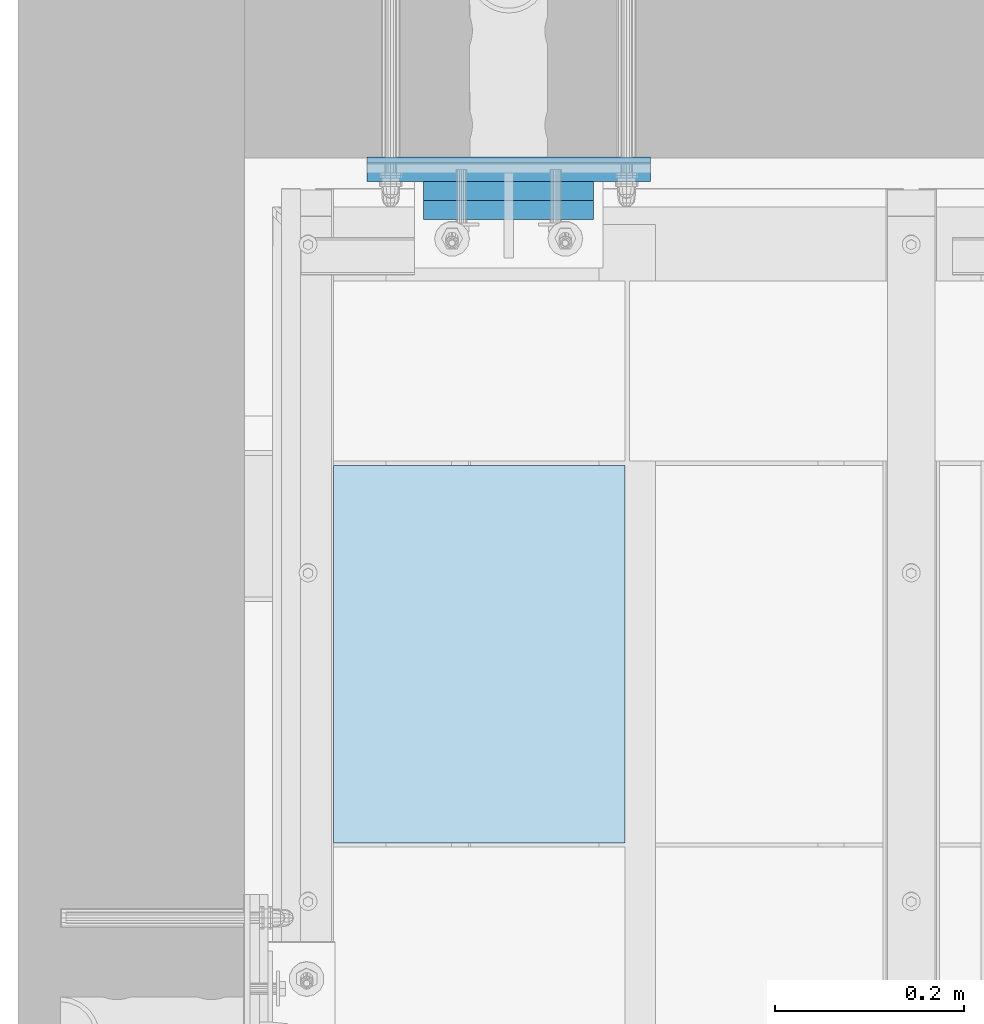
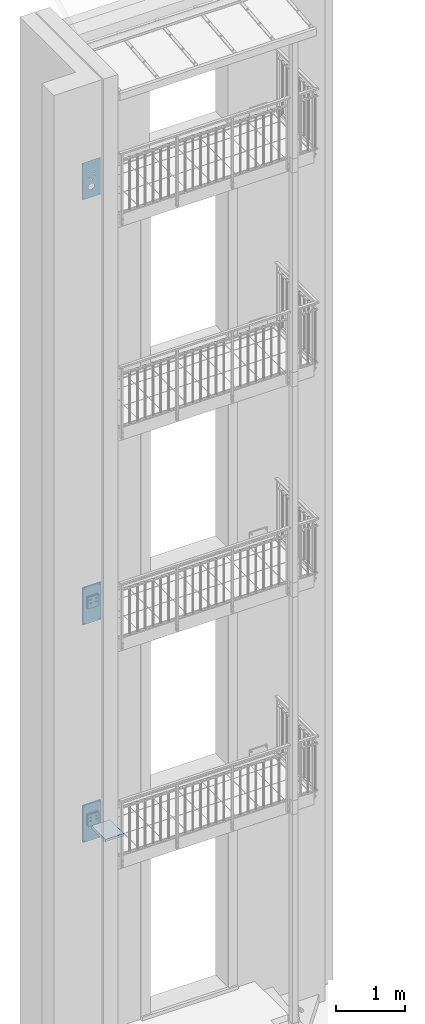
# One storey, part 61 of 162: 10 plates, 58 openings.
"""IFC2X3 building model written with IfcOpenShell, lengths in millimetres."""

from ifc_helpers import new_model, entity, si_unit, converted_unit, point, frame, frame_2d, origin, origin_with_axes, place, context, project, spatial, polyline, circle_curve, line_curve, trimmed, segment, composite_curve, circle, outline, extrude, material, layer, layer_set, element, save


model = new_model("IFC2X3")

# Units and contexts
model_context = context("Model", 3, precision=1e-09, world=origin_with_axes())
ifc_project = project(units=[si_unit("LENGTHUNIT", "METRE", prefix="MILLI"), si_unit("AREAUNIT", "SQUARE_METRE"), si_unit("VOLUMEUNIT", "CUBIC_METRE"), converted_unit("PLANEANGLEUNIT", "DEGREE", entity("IfcPlaneAngleMeasure", 0.01745329), si_unit("PLANEANGLEUNIT", "RADIAN"), dimensions=[0, 0, 0, 0, 0, 0, 0])], contexts=[model_context])

# Site, building, storey
site_placement = place(None, origin_with_axes())
site = spatial("IfcSite", under=ifc_project, at=site_placement, Name="Hermannstra?e 1a, 60318 Frankfurt", CompositionType="ELEMENT")
building_placement = place(site_placement, origin_with_axes())
building = spatial("IfcBuilding", under=site, at=building_placement, Name="Struktur 1", CompositionType="ELEMENT")
storey_placement = place(building_placement, origin_with_axes())
storey = spatial("IfcBuildingStorey", under=building, at=storey_placement, Name="Default Storey", CompositionType="ELEMENT", Elevation=0.0)

# Plate, openings
ifc_material_1 = material(Name="Thermostop")
ifc_layer_1 = layer(ifc_material_1, 6.0)
ifc_layer_set_1 = layer_set([ifc_layer_1], Name="Thermostop")
plate_1_placement = place(None, frame((2803.310071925, 2736.610081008, 15061.999), z_axis=(0.0, -1.0, 0.0), x_axis=(1.0, 0.0, 0.0)))
plate_1 = element("IfcPlate", 1, at=plate_1_placement, inside=storey, material=ifc_layer_set_1, Name="-", ObjectType="-", context=model_context, shape_type="SweptSolid", body=[
    extrude(outline(polyline([(-150.0, -325.0), (150.0, -325.0), (150.0, 325.0), (-150.0, 325.0), (-150.0, -325.0)])), origin_with_axes(), (0.0, 0.0, 1.0), 6.0),
])
opening_1_placement = place(plate_1_placement, frame((0.0, 0.0, -0.5), z_axis=(0.0, 0.0, 1.0), x_axis=(1.0, 0.0, 0.0)))
element("IfcOpeningElement", 2, at=opening_1_placement, cuts=plate_1, ObjectType="Opening", context=model_context, shape_type="SweptSolid", body=[
    extrude(circle(Radius=10.001, at=frame_2d((125.0, 300.0), x_axis=(1.0, 0.0))), origin(), (0.0, 0.0, 1.0), 7.0),
])
opening_2_placement = place(plate_1_placement, frame((0.0, 0.0, -0.5), z_axis=(0.0, 0.0, 1.0), x_axis=(1.0, 0.0, 0.0)))
element("IfcOpeningElement", 3, at=opening_2_placement, cuts=plate_1, ObjectType="Opening", context=model_context, shape_type="SweptSolid", body=[
    extrude(circle(Radius=10.001, at=frame_2d((-125.0, 300.0), x_axis=(1.0, 0.0))), origin(), (0.0, 0.0, 1.0), 7.0),
])
opening_3_placement = place(plate_1_placement, frame((0.0, 0.0, -0.5), z_axis=(0.0, 0.0, 1.0), x_axis=(1.0, 0.0, 0.0)))
element("IfcOpeningElement", 4, at=opening_3_placement, cuts=plate_1, ObjectType="Opening", context=model_context, shape_type="SweptSolid", body=[
    extrude(circle(Radius=10.001, at=frame_2d((125.0, -300.0), x_axis=(1.0, 0.0))), origin(), (0.0, 0.0, 1.0), 7.0),
])
opening_4_placement = place(plate_1_placement, frame((0.0, 0.0, -0.5), z_axis=(0.0, 0.0, 1.0), x_axis=(1.0, 0.0, 0.0)))
element("IfcOpeningElement", 5, at=opening_4_placement, cuts=plate_1, ObjectType="Opening", context=model_context, shape_type="SweptSolid", body=[
    extrude(circle(Radius=10.001, at=frame_2d((-125.0, -300.0), x_axis=(1.0, 0.0))), origin(), (0.0, 0.0, 1.0), 7.0),
])
opening_5_placement = place(plate_1_placement, frame((0.0, -40.0, -0.5), z_axis=(0.0, 0.0, 1.0), x_axis=(1.0, 0.0, 0.0)))
element("IfcOpeningElement", 6, at=opening_5_placement, cuts=plate_1, ObjectType="Opening", context=model_context, shape_type="SweptSolid", body=[
    extrude(circle(Radius=11.001, at=frame_2d((50.0, 150.0), x_axis=(1.0, 0.0))), origin(), (0.0, 0.0, 1.0), 7.0),
])
opening_6_placement = place(plate_1_placement, frame((0.0, -40.0, -0.5), z_axis=(0.0, 0.0, 1.0), x_axis=(1.0, 0.0, 0.0)))
element("IfcOpeningElement", 7, at=opening_6_placement, cuts=plate_1, ObjectType="Opening", context=model_context, shape_type="SweptSolid", body=[
    extrude(circle(Radius=11.001, at=frame_2d((-50.0, 150.0), x_axis=(1.0, 0.0))), origin(), (0.0, 0.0, 1.0), 7.0),
])
opening_7_placement = place(plate_1_placement, frame((0.0, -40.0, -0.5), z_axis=(0.0, 0.0, 1.0), x_axis=(1.0, 0.0, 0.0)))
element("IfcOpeningElement", 8, at=opening_7_placement, cuts=plate_1, ObjectType="Opening", context=model_context, shape_type="SweptSolid", body=[
    extrude(circle(Radius=11.001, at=frame_2d((50.0, 90.0), x_axis=(1.0, 0.0))), origin(), (0.0, 0.0, 1.0), 7.0),
])
opening_8_placement = place(plate_1_placement, frame((0.0, -40.0, -0.5), z_axis=(0.0, 0.0, 1.0), x_axis=(1.0, 0.0, 0.0)))
element("IfcOpeningElement", 9, at=opening_8_placement, cuts=plate_1, ObjectType="Opening", context=model_context, shape_type="SweptSolid", body=[
    extrude(circle(Radius=11.001, at=frame_2d((-50.0, 90.0), x_axis=(1.0, 0.0))), origin(), (0.0, 0.0, 1.0), 7.0),
])
opening_9_placement = place(plate_1_placement, frame((0.0, -125.0, -0.5), z_axis=(0.0, 0.0, 1.0), x_axis=(1.0, 0.0, 0.0)))
element("IfcOpeningElement", 10, at=opening_9_placement, cuts=plate_1, ObjectType="Opening", context=model_context, shape_type="SweptSolid", body=[
    extrude(circle(Radius=50.001, at=frame_2d((0.0, -10.0), x_axis=(1.0, 0.0))), origin(), (0.0, 0.0, 1.0), 7.0),
])
opening_10_placement = place(plate_1_placement, frame((0.0, -325.0, -0.5), z_axis=(0.0, 0.0, 1.0), x_axis=(1.0, 0.0, 0.0)))
element("IfcOpeningElement", 11, at=opening_10_placement, cuts=plate_1, ObjectType="Opening", context=model_context, shape_type="SweptSolid", body=[
    extrude(circle(Radius=15.001, at=frame_2d((0.0, 310.0), x_axis=(1.0, 0.0))), origin(), (0.0, 0.0, 1.0), 7.0),
])

# Plate, opening
ifc_material_2 = material(Name="S235JR")
ifc_layer_2 = layer(ifc_material_2, 20.0)
ifc_layer_set_2 = layer_set([ifc_layer_2], Name="S235JR")
plate_2_placement = place(None, frame((2803.308657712, 2710.608666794, 7665.0), z_axis=(0.0, -1.0, 0.0), x_axis=(1.0, 0.0, 0.0)))
plate_2 = element("IfcPlate", 12, at=plate_2_placement, inside=storey, material=ifc_layer_set_2, Name="-", ObjectType="-", context=model_context, shape_type="SweptSolid", body=[
    extrude(outline(polyline([(-90.0, -100.0), (90.0, -100.0), (90.0, 100.0), (-90.0, 100.0), (-90.0, -100.0)])), origin_with_axes(), (0.0, 0.0, 1.0), 20.0),
])
opening_11_placement = place(plate_2_placement, frame((0.0, -65.0, -0.5), z_axis=(0.0, 0.0, 1.0), x_axis=(1.0, 0.0, 0.0)))
element("IfcOpeningElement", 13, at=opening_11_placement, cuts=plate_2, ObjectType="Opening", context=model_context, shape_type="SweptSolid", body=[
    extrude(circle(Radius=15.001, at=frame_2d((0.0, -10.0), x_axis=(1.0, 0.0))), origin(), (0.0, 0.0, 1.0), 21.0),
])

# Plate, openings
plate_3_placement = place(None, frame((2803.308657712, 2690.608666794, 7665.0), z_axis=(0.0, -1.0, 0.0), x_axis=(1.0, 0.0, 0.0)))
plate_3 = element("IfcPlate", 14, at=plate_3_placement, inside=storey, material=ifc_layer_set_2, Name="-", ObjectType="-", context=model_context, shape_type="SweptSolid", body=[
    extrude(outline(polyline([(-90.0, -100.0), (90.0, -100.0), (90.0, 100.0), (-90.0, 100.0), (-90.0, -100.0)])), origin_with_axes(), (0.0, 0.0, 1.0), 20.0),
])
opening_12_placement = place(plate_3_placement, frame((-2e-08, 19.999999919, -0.5), z_axis=(0.0, 0.0, 1.0), x_axis=(1.0, 0.0, 0.0)))
element("IfcOpeningElement", 15, at=opening_12_placement, cuts=plate_3, ObjectType="Opening", context=model_context, shape_type="SweptSolid", body=[
    extrude(outline(composite_curve([segment(trimmed(line_curve((41.5, 20.999), (1.0, 0.0), 17.0), [point((41.5, 20.999))], [point((58.5, 20.999))], True, "CARTESIAN"), True, "CONTINUOUS"), segment(trimmed(circle_curve(frame_2d((58.5, 30.0), x_axis=(1.0, 0.0)), 9.001), [point((58.5, 20.999))], [point((58.5, 39.001))], True, "CARTESIAN"), True, "CONTINUOUS"), segment(trimmed(line_curve((58.5, 39.001), (-1.0, 0.0), 17.0), [point((58.5, 39.001))], [point((41.5, 39.001))], True, "CARTESIAN"), True, "CONTINUOUS"), segment(trimmed(circle_curve(frame_2d((41.5, 30.0), x_axis=(1.0, 0.0)), 9.001), [point((41.5, 39.001))], [point((41.5, 20.999))], True, "CARTESIAN"), True, "CONTINUOUS")], self_intersect=False)), origin(), (0.0, 0.0, 1.0), 21.0),
])
opening_13_placement = place(plate_3_placement, frame((-2e-08, 19.999999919, -0.5), z_axis=(0.0, 0.0, 1.0), x_axis=(1.0, 0.0, 0.0)))
element("IfcOpeningElement", 16, at=opening_13_placement, cuts=plate_3, ObjectType="Opening", context=model_context, shape_type="SweptSolid", body=[
    extrude(outline(composite_curve([segment(trimmed(line_curve((-58.5, 20.999), (1.0, 0.0), 17.0), [point((-58.5, 20.999))], [point((-41.5, 20.999))], True, "CARTESIAN"), True, "CONTINUOUS"), segment(trimmed(circle_curve(frame_2d((-41.5, 30.0), x_axis=(1.0, 0.0)), 9.001), [point((-41.5, 20.999))], [point((-41.5, 39.001))], True, "CARTESIAN"), True, "CONTINUOUS"), segment(trimmed(line_curve((-41.5, 39.001), (-1.0, 0.0), 17.0), [point((-41.5, 39.001))], [point((-58.5, 39.001))], True, "CARTESIAN"), True, "CONTINUOUS"), segment(trimmed(circle_curve(frame_2d((-58.5, 30.0), x_axis=(1.0, 0.0)), 9.001), [point((-58.5, 39.001))], [point((-58.5, 20.999))], True, "CARTESIAN"), True, "CONTINUOUS")], self_intersect=False)), origin(), (0.0, 0.0, 1.0), 21.0),
])
opening_14_placement = place(plate_3_placement, frame((-2e-08, 19.999999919, -0.5), z_axis=(0.0, 0.0, 1.0), x_axis=(1.0, 0.0, 0.0)))
element("IfcOpeningElement", 17, at=opening_14_placement, cuts=plate_3, ObjectType="Opening", context=model_context, shape_type="SweptSolid", body=[
    extrude(outline(composite_curve([segment(trimmed(line_curve((41.5, -39.001), (1.0, 0.0), 17.0), [point((41.5, -39.001))], [point((58.5, -39.001))], True, "CARTESIAN"), True, "CONTINUOUS"), segment(trimmed(circle_curve(frame_2d((58.5, -30.0), x_axis=(1.0, 0.0)), 9.001), [point((58.5, -39.001))], [point((58.5, -20.999))], True, "CARTESIAN"), True, "CONTINUOUS"), segment(trimmed(line_curve((58.5, -20.999), (-1.0, 0.0), 17.0), [point((58.5, -20.999))], [point((41.5, -20.999))], True, "CARTESIAN"), True, "CONTINUOUS"), segment(trimmed(circle_curve(frame_2d((41.5, -30.0), x_axis=(1.0, 0.0)), 9.001), [point((41.5, -20.999))], [point((41.5, -39.001))], True, "CARTESIAN"), True, "CONTINUOUS")], self_intersect=False)), origin(), (0.0, 0.0, 1.0), 21.0),
])
opening_15_placement = place(plate_3_placement, frame((-2e-08, 19.999999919, -0.5), z_axis=(0.0, 0.0, 1.0), x_axis=(1.0, 0.0, 0.0)))
element("IfcOpeningElement", 18, at=opening_15_placement, cuts=plate_3, ObjectType="Opening", context=model_context, shape_type="SweptSolid", body=[
    extrude(outline(composite_curve([segment(trimmed(line_curve((-58.5, -39.001), (1.0, 0.0), 17.0), [point((-58.5, -39.001))], [point((-41.5, -39.001))], True, "CARTESIAN"), True, "CONTINUOUS"), segment(trimmed(circle_curve(frame_2d((-41.5, -30.0), x_axis=(1.0, 0.0)), 9.001), [point((-41.5, -39.001))], [point((-41.5, -20.999))], True, "CARTESIAN"), True, "CONTINUOUS"), segment(trimmed(line_curve((-41.5, -20.999), (-1.0, 0.0), 17.0), [point((-41.5, -20.999))], [point((-58.5, -20.999))], True, "CARTESIAN"), True, "CONTINUOUS"), segment(trimmed(circle_curve(frame_2d((-58.5, -30.0), x_axis=(1.0, 0.0)), 9.001), [point((-58.5, -20.999))], [point((-58.5, -39.001))], True, "CARTESIAN"), True, "CONTINUOUS")], self_intersect=False)), origin(), (0.0, 0.0, 1.0), 21.0),
])

plate_4_placement = place(None, frame((2803.308657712, 2730.608666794, 7605.0), z_axis=(0.0, -1.0, 0.0), x_axis=(1.0, 0.0, 0.0)))
plate_4 = element("IfcPlate", 19, at=plate_4_placement, inside=storey, material=ifc_layer_set_2, Name="-", ObjectType="-", context=model_context, shape_type="SweptSolid", body=[
    extrude(outline(polyline([(-150.0, -325.0), (150.0, -325.0), (150.0, 325.0), (-150.0, 325.0), (-150.0, -325.0)])), origin_with_axes(), (0.0, 0.0, 1.0), 20.0),
])
opening_16_placement = place(plate_4_placement, frame((0.0, 0.0, -0.5), z_axis=(0.0, 0.0, 1.0), x_axis=(1.0, 0.0, 0.0)))
element("IfcOpeningElement", 20, at=opening_16_placement, cuts=plate_4, ObjectType="Opening", context=model_context, shape_type="SweptSolid", body=[
    extrude(circle(Radius=8.001, at=frame_2d((125.0, 300.0), x_axis=(1.0, 0.0))), origin(), (0.0, 0.0, 1.0), 21.0),
])
opening_17_placement = place(plate_4_placement, frame((0.0, 0.0, -0.5), z_axis=(0.0, 0.0, 1.0), x_axis=(1.0, 0.0, 0.0)))
element("IfcOpeningElement", 21, at=opening_17_placement, cuts=plate_4, ObjectType="Opening", context=model_context, shape_type="SweptSolid", body=[
    extrude(circle(Radius=8.001, at=frame_2d((-125.0, 300.0), x_axis=(1.0, 0.0))), origin(), (0.0, 0.0, 1.0), 21.0),
])
opening_18_placement = place(plate_4_placement, frame((0.0, 0.0, -0.5), z_axis=(0.0, 0.0, 1.0), x_axis=(1.0, 0.0, 0.0)))
element("IfcOpeningElement", 22, at=opening_18_placement, cuts=plate_4, ObjectType="Opening", context=model_context, shape_type="SweptSolid", body=[
    extrude(circle(Radius=8.001, at=frame_2d((125.0, -300.0), x_axis=(1.0, 0.0))), origin(), (0.0, 0.0, 1.0), 21.0),
])
opening_19_placement = place(plate_4_placement, frame((0.0, 0.0, -0.5), z_axis=(0.0, 0.0, 1.0), x_axis=(1.0, 0.0, 0.0)))
element("IfcOpeningElement", 23, at=opening_19_placement, cuts=plate_4, ObjectType="Opening", context=model_context, shape_type="SweptSolid", body=[
    extrude(circle(Radius=8.001, at=frame_2d((-125.0, -300.0), x_axis=(1.0, 0.0))), origin(), (0.0, 0.0, 1.0), 21.0),
])
opening_20_placement = place(plate_4_placement, frame((0.0, 325.0, -0.5), z_axis=(0.0, 0.0, 1.0), x_axis=(1.0, 0.0, 0.0)))
element("IfcOpeningElement", 24, at=opening_20_placement, cuts=plate_4, ObjectType="Opening", context=model_context, shape_type="SweptSolid", body=[
    extrude(circle(Radius=11.001, at=frame_2d((50.0, -215.0), x_axis=(1.0, 0.0))), origin(), (0.0, 0.0, 1.0), 21.0),
])
opening_21_placement = place(plate_4_placement, frame((0.0, 325.0, -0.5), z_axis=(0.0, 0.0, 1.0), x_axis=(1.0, 0.0, 0.0)))
element("IfcOpeningElement", 25, at=opening_21_placement, cuts=plate_4, ObjectType="Opening", context=model_context, shape_type="SweptSolid", body=[
    extrude(circle(Radius=11.001, at=frame_2d((-50.0, -215.0), x_axis=(1.0, 0.0))), origin(), (0.0, 0.0, 1.0), 21.0),
])
opening_22_placement = place(plate_4_placement, frame((0.0, 325.0, -0.5), z_axis=(0.0, 0.0, 1.0), x_axis=(1.0, 0.0, 0.0)))
element("IfcOpeningElement", 26, at=opening_22_placement, cuts=plate_4, ObjectType="Opening", context=model_context, shape_type="SweptSolid", body=[
    extrude(circle(Radius=11.001, at=frame_2d((50.0, -275.0), x_axis=(1.0, 0.0))), origin(), (0.0, 0.0, 1.0), 21.0),
])
opening_23_placement = place(plate_4_placement, frame((0.0, 325.0, -0.5), z_axis=(0.0, 0.0, 1.0), x_axis=(1.0, 0.0, 0.0)))
element("IfcOpeningElement", 27, at=opening_23_placement, cuts=plate_4, ObjectType="Opening", context=model_context, shape_type="SweptSolid", body=[
    extrude(circle(Radius=11.001, at=frame_2d((-50.0, -275.0), x_axis=(1.0, 0.0))), origin(), (0.0, 0.0, 1.0), 21.0),
])
opening_24_placement = place(plate_4_placement, frame((0.0, -5.0, -0.5), z_axis=(0.0, 0.0, 1.0), x_axis=(1.0, 0.0, 0.0)))
element("IfcOpeningElement", 28, at=opening_24_placement, cuts=plate_4, ObjectType="Opening", context=model_context, shape_type="SweptSolid", body=[
    extrude(circle(Radius=15.001, at=frame_2d((0.0, -10.0), x_axis=(1.0, 0.0))), origin(), (0.0, 0.0, 1.0), 21.0),
])

plate_5_placement = place(None, frame((2803.308657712, 2736.608666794, 7605.0), z_axis=(0.0, -1.0, 0.0), x_axis=(1.0, 0.0, 0.0)))
plate_5 = element("IfcPlate", 29, at=plate_5_placement, inside=storey, material=ifc_layer_set_1, Name="-", ObjectType="-", context=model_context, shape_type="SweptSolid", body=[
    extrude(outline(polyline([(-150.0, -325.0), (150.0, -325.0), (150.0, 325.0), (-150.0, 325.0), (-150.0, -325.0)])), origin_with_axes(), (0.0, 0.0, 1.0), 6.0),
])
opening_25_placement = place(plate_5_placement, frame((0.0, 0.0, -0.5), z_axis=(0.0, 0.0, 1.0), x_axis=(1.0, 0.0, 0.0)))
element("IfcOpeningElement", 30, at=opening_25_placement, cuts=plate_5, ObjectType="Opening", context=model_context, shape_type="SweptSolid", body=[
    extrude(circle(Radius=10.001, at=frame_2d((125.0, 300.0), x_axis=(1.0, 0.0))), origin(), (0.0, 0.0, 1.0), 7.0),
])
opening_26_placement = place(plate_5_placement, frame((0.0, 0.0, -0.5), z_axis=(0.0, 0.0, 1.0), x_axis=(1.0, 0.0, 0.0)))
element("IfcOpeningElement", 31, at=opening_26_placement, cuts=plate_5, ObjectType="Opening", context=model_context, shape_type="SweptSolid", body=[
    extrude(circle(Radius=10.001, at=frame_2d((-125.0, 300.0), x_axis=(1.0, 0.0))), origin(), (0.0, 0.0, 1.0), 7.0),
])
opening_27_placement = place(plate_5_placement, frame((0.0, 0.0, -0.5), z_axis=(0.0, 0.0, 1.0), x_axis=(1.0, 0.0, 0.0)))
element("IfcOpeningElement", 32, at=opening_27_placement, cuts=plate_5, ObjectType="Opening", context=model_context, shape_type="SweptSolid", body=[
    extrude(circle(Radius=10.001, at=frame_2d((125.0, -300.0), x_axis=(1.0, 0.0))), origin(), (0.0, 0.0, 1.0), 7.0),
])
opening_28_placement = place(plate_5_placement, frame((0.0, 0.0, -0.5), z_axis=(0.0, 0.0, 1.0), x_axis=(1.0, 0.0, 0.0)))
element("IfcOpeningElement", 33, at=opening_28_placement, cuts=plate_5, ObjectType="Opening", context=model_context, shape_type="SweptSolid", body=[
    extrude(circle(Radius=10.001, at=frame_2d((-125.0, -300.0), x_axis=(1.0, 0.0))), origin(), (0.0, 0.0, 1.0), 7.0),
])
opening_29_placement = place(plate_5_placement, frame((0.0, -40.0, -0.5), z_axis=(0.0, 0.0, 1.0), x_axis=(1.0, 0.0, 0.0)))
element("IfcOpeningElement", 34, at=opening_29_placement, cuts=plate_5, ObjectType="Opening", context=model_context, shape_type="SweptSolid", body=[
    extrude(circle(Radius=11.001, at=frame_2d((50.0, 150.0), x_axis=(1.0, 0.0))), origin(), (0.0, 0.0, 1.0), 7.0),
])
opening_30_placement = place(plate_5_placement, frame((0.0, -40.0, -0.5), z_axis=(0.0, 0.0, 1.0), x_axis=(1.0, 0.0, 0.0)))
element("IfcOpeningElement", 35, at=opening_30_placement, cuts=plate_5, ObjectType="Opening", context=model_context, shape_type="SweptSolid", body=[
    extrude(circle(Radius=11.001, at=frame_2d((-50.0, 150.0), x_axis=(1.0, 0.0))), origin(), (0.0, 0.0, 1.0), 7.0),
])
opening_31_placement = place(plate_5_placement, frame((0.0, -40.0, -0.5), z_axis=(0.0, 0.0, 1.0), x_axis=(1.0, 0.0, 0.0)))
element("IfcOpeningElement", 36, at=opening_31_placement, cuts=plate_5, ObjectType="Opening", context=model_context, shape_type="SweptSolid", body=[
    extrude(circle(Radius=11.001, at=frame_2d((50.0, 90.0), x_axis=(1.0, 0.0))), origin(), (0.0, 0.0, 1.0), 7.0),
])
opening_32_placement = place(plate_5_placement, frame((0.0, -40.0, -0.5), z_axis=(0.0, 0.0, 1.0), x_axis=(1.0, 0.0, 0.0)))
element("IfcOpeningElement", 37, at=opening_32_placement, cuts=plate_5, ObjectType="Opening", context=model_context, shape_type="SweptSolid", body=[
    extrude(circle(Radius=11.001, at=frame_2d((-50.0, 90.0), x_axis=(1.0, 0.0))), origin(), (0.0, 0.0, 1.0), 7.0),
])
opening_33_placement = place(plate_5_placement, frame((0.0, -125.0, -0.5), z_axis=(0.0, 0.0, 1.0), x_axis=(1.0, 0.0, 0.0)))
element("IfcOpeningElement", 38, at=opening_33_placement, cuts=plate_5, ObjectType="Opening", context=model_context, shape_type="SweptSolid", body=[
    extrude(circle(Radius=50.001, at=frame_2d((0.0, -10.0), x_axis=(1.0, 0.0))), origin(), (0.0, 0.0, 1.0), 7.0),
])
opening_34_placement = place(plate_5_placement, frame((0.0, -325.0, -0.5), z_axis=(0.0, 0.0, 1.0), x_axis=(1.0, 0.0, 0.0)))
element("IfcOpeningElement", 39, at=opening_34_placement, cuts=plate_5, ObjectType="Opening", context=model_context, shape_type="SweptSolid", body=[
    extrude(circle(Radius=15.001, at=frame_2d((0.0, 310.0), x_axis=(1.0, 0.0))), origin(), (0.0, 0.0, 1.0), 7.0),
])

# Plate, opening
plate_6_placement = place(None, frame((2803.310071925, 2710.610081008, 3840.0), z_axis=(0.0, -1.0, 0.0), x_axis=(1.0, 0.0, 0.0)))
plate_6 = element("IfcPlate", 40, at=plate_6_placement, inside=storey, material=ifc_layer_set_2, Name="-", ObjectType="-", context=model_context, shape_type="SweptSolid", body=[
    extrude(outline(polyline([(-90.0, -100.0), (90.0, -100.0), (90.0, 100.0), (-90.0, 100.0), (-90.0, -100.0)])), origin_with_axes(), (0.0, 0.0, 1.0), 20.0),
])
opening_35_placement = place(plate_6_placement, frame((0.0, -65.0, -0.5), z_axis=(0.0, 0.0, 1.0), x_axis=(1.0, 0.0, 0.0)))
element("IfcOpeningElement", 41, at=opening_35_placement, cuts=plate_6, ObjectType="Opening", context=model_context, shape_type="SweptSolid", body=[
    extrude(circle(Radius=15.001, at=frame_2d((0.0, -10.0), x_axis=(1.0, 0.0))), origin(), (0.0, 0.0, 1.0), 21.0),
])

# Plate, openings
plate_7_placement = place(None, frame((2803.310071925, 2690.610081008, 3840.0), z_axis=(0.0, -1.0, 0.0), x_axis=(1.0, 0.0, 0.0)))
plate_7 = element("IfcPlate", 42, at=plate_7_placement, inside=storey, material=ifc_layer_set_2, Name="-", ObjectType="-", context=model_context, shape_type="SweptSolid", body=[
    extrude(outline(polyline([(-90.0, -100.0), (90.0, -100.0), (90.0, 100.0), (-90.0, 100.0), (-90.0, -100.0)])), origin_with_axes(), (0.0, 0.0, 1.0), 20.0),
])
opening_36_placement = place(plate_7_placement, frame((-2e-08, 19.999999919, -0.5), z_axis=(0.0, 0.0, 1.0), x_axis=(1.0, 0.0, 0.0)))
element("IfcOpeningElement", 43, at=opening_36_placement, cuts=plate_7, ObjectType="Opening", context=model_context, shape_type="SweptSolid", body=[
    extrude(outline(composite_curve([segment(trimmed(line_curve((41.5, 20.999), (1.0, 0.0), 17.0), [point((41.5, 20.999))], [point((58.5, 20.999))], True, "CARTESIAN"), True, "CONTINUOUS"), segment(trimmed(circle_curve(frame_2d((58.5, 30.0), x_axis=(1.0, 0.0)), 9.001), [point((58.5, 20.999))], [point((58.5, 39.001))], True, "CARTESIAN"), True, "CONTINUOUS"), segment(trimmed(line_curve((58.5, 39.001), (-1.0, 0.0), 17.0), [point((58.5, 39.001))], [point((41.5, 39.001))], True, "CARTESIAN"), True, "CONTINUOUS"), segment(trimmed(circle_curve(frame_2d((41.5, 30.0), x_axis=(1.0, 0.0)), 9.001), [point((41.5, 39.001))], [point((41.5, 20.999))], True, "CARTESIAN"), True, "CONTINUOUS")], self_intersect=False)), origin(), (0.0, 0.0, 1.0), 21.0),
])
opening_37_placement = place(plate_7_placement, frame((-2e-08, 19.999999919, -0.5), z_axis=(0.0, 0.0, 1.0), x_axis=(1.0, 0.0, 0.0)))
element("IfcOpeningElement", 44, at=opening_37_placement, cuts=plate_7, ObjectType="Opening", context=model_context, shape_type="SweptSolid", body=[
    extrude(outline(composite_curve([segment(trimmed(line_curve((-58.5, 20.999), (1.0, 0.0), 17.0), [point((-58.5, 20.999))], [point((-41.5, 20.999))], True, "CARTESIAN"), True, "CONTINUOUS"), segment(trimmed(circle_curve(frame_2d((-41.5, 30.0), x_axis=(1.0, 0.0)), 9.001), [point((-41.5, 20.999))], [point((-41.5, 39.001))], True, "CARTESIAN"), True, "CONTINUOUS"), segment(trimmed(line_curve((-41.5, 39.001), (-1.0, 0.0), 17.0), [point((-41.5, 39.001))], [point((-58.5, 39.001))], True, "CARTESIAN"), True, "CONTINUOUS"), segment(trimmed(circle_curve(frame_2d((-58.5, 30.0), x_axis=(1.0, 0.0)), 9.001), [point((-58.5, 39.001))], [point((-58.5, 20.999))], True, "CARTESIAN"), True, "CONTINUOUS")], self_intersect=False)), origin(), (0.0, 0.0, 1.0), 21.0),
])
opening_38_placement = place(plate_7_placement, frame((-2e-08, 19.999999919, -0.5), z_axis=(0.0, 0.0, 1.0), x_axis=(1.0, 0.0, 0.0)))
element("IfcOpeningElement", 45, at=opening_38_placement, cuts=plate_7, ObjectType="Opening", context=model_context, shape_type="SweptSolid", body=[
    extrude(outline(composite_curve([segment(trimmed(line_curve((41.5, -39.001), (1.0, 0.0), 17.0), [point((41.5, -39.001))], [point((58.5, -39.001))], True, "CARTESIAN"), True, "CONTINUOUS"), segment(trimmed(circle_curve(frame_2d((58.5, -30.0), x_axis=(1.0, 0.0)), 9.001), [point((58.5, -39.001))], [point((58.5, -20.999))], True, "CARTESIAN"), True, "CONTINUOUS"), segment(trimmed(line_curve((58.5, -20.999), (-1.0, 0.0), 17.0), [point((58.5, -20.999))], [point((41.5, -20.999))], True, "CARTESIAN"), True, "CONTINUOUS"), segment(trimmed(circle_curve(frame_2d((41.5, -30.0), x_axis=(1.0, 0.0)), 9.001), [point((41.5, -20.999))], [point((41.5, -39.001))], True, "CARTESIAN"), True, "CONTINUOUS")], self_intersect=False)), origin(), (0.0, 0.0, 1.0), 21.0),
])
opening_39_placement = place(plate_7_placement, frame((-2e-08, 19.999999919, -0.5), z_axis=(0.0, 0.0, 1.0), x_axis=(1.0, 0.0, 0.0)))
element("IfcOpeningElement", 46, at=opening_39_placement, cuts=plate_7, ObjectType="Opening", context=model_context, shape_type="SweptSolid", body=[
    extrude(outline(composite_curve([segment(trimmed(line_curve((-58.5, -39.001), (1.0, 0.0), 17.0), [point((-58.5, -39.001))], [point((-41.5, -39.001))], True, "CARTESIAN"), True, "CONTINUOUS"), segment(trimmed(circle_curve(frame_2d((-41.5, -30.0), x_axis=(1.0, 0.0)), 9.001), [point((-41.5, -39.001))], [point((-41.5, -20.999))], True, "CARTESIAN"), True, "CONTINUOUS"), segment(trimmed(line_curve((-41.5, -20.999), (-1.0, 0.0), 17.0), [point((-41.5, -20.999))], [point((-58.5, -20.999))], True, "CARTESIAN"), True, "CONTINUOUS"), segment(trimmed(circle_curve(frame_2d((-58.5, -30.0), x_axis=(1.0, 0.0)), 9.001), [point((-58.5, -20.999))], [point((-58.5, -39.001))], True, "CARTESIAN"), True, "CONTINUOUS")], self_intersect=False)), origin(), (0.0, 0.0, 1.0), 21.0),
])

plate_8_placement = place(None, frame((2803.310071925, 2730.610081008, 3780.0), z_axis=(0.0, -1.0, 0.0), x_axis=(1.0, 0.0, 0.0)))
plate_8 = element("IfcPlate", 47, at=plate_8_placement, inside=storey, material=ifc_layer_set_2, Name="-", ObjectType="-", context=model_context, shape_type="SweptSolid", body=[
    extrude(outline(polyline([(-150.0, -325.0), (150.0, -325.0), (150.0, 325.0), (-150.0, 325.0), (-150.0, -325.0)])), origin_with_axes(), (0.0, 0.0, 1.0), 20.0),
])
opening_40_placement = place(plate_8_placement, frame((0.0, 0.0, -0.5), z_axis=(0.0, 0.0, 1.0), x_axis=(1.0, 0.0, 0.0)))
element("IfcOpeningElement", 48, at=opening_40_placement, cuts=plate_8, ObjectType="Opening", context=model_context, shape_type="SweptSolid", body=[
    extrude(circle(Radius=8.001, at=frame_2d((125.0, 300.0), x_axis=(1.0, 0.0))), origin(), (0.0, 0.0, 1.0), 21.0),
])
opening_41_placement = place(plate_8_placement, frame((0.0, 0.0, -0.5), z_axis=(0.0, 0.0, 1.0), x_axis=(1.0, 0.0, 0.0)))
element("IfcOpeningElement", 49, at=opening_41_placement, cuts=plate_8, ObjectType="Opening", context=model_context, shape_type="SweptSolid", body=[
    extrude(circle(Radius=8.001, at=frame_2d((-125.0, 300.0), x_axis=(1.0, 0.0))), origin(), (0.0, 0.0, 1.0), 21.0),
])
opening_42_placement = place(plate_8_placement, frame((0.0, 0.0, -0.5), z_axis=(0.0, 0.0, 1.0), x_axis=(1.0, 0.0, 0.0)))
element("IfcOpeningElement", 50, at=opening_42_placement, cuts=plate_8, ObjectType="Opening", context=model_context, shape_type="SweptSolid", body=[
    extrude(circle(Radius=8.001, at=frame_2d((125.0, -300.0), x_axis=(1.0, 0.0))), origin(), (0.0, 0.0, 1.0), 21.0),
])
opening_43_placement = place(plate_8_placement, frame((0.0, 0.0, -0.5), z_axis=(0.0, 0.0, 1.0), x_axis=(1.0, 0.0, 0.0)))
element("IfcOpeningElement", 51, at=opening_43_placement, cuts=plate_8, ObjectType="Opening", context=model_context, shape_type="SweptSolid", body=[
    extrude(circle(Radius=8.001, at=frame_2d((-125.0, -300.0), x_axis=(1.0, 0.0))), origin(), (0.0, 0.0, 1.0), 21.0),
])
opening_44_placement = place(plate_8_placement, frame((0.0, 325.0, -0.5), z_axis=(0.0, 0.0, 1.0), x_axis=(1.0, 0.0, 0.0)))
element("IfcOpeningElement", 52, at=opening_44_placement, cuts=plate_8, ObjectType="Opening", context=model_context, shape_type="SweptSolid", body=[
    extrude(circle(Radius=11.001, at=frame_2d((50.0, -215.0), x_axis=(1.0, 0.0))), origin(), (0.0, 0.0, 1.0), 21.0),
])
opening_45_placement = place(plate_8_placement, frame((0.0, 325.0, -0.5), z_axis=(0.0, 0.0, 1.0), x_axis=(1.0, 0.0, 0.0)))
element("IfcOpeningElement", 53, at=opening_45_placement, cuts=plate_8, ObjectType="Opening", context=model_context, shape_type="SweptSolid", body=[
    extrude(circle(Radius=11.001, at=frame_2d((-50.0, -215.0), x_axis=(1.0, 0.0))), origin(), (0.0, 0.0, 1.0), 21.0),
])
opening_46_placement = place(plate_8_placement, frame((0.0, 325.0, -0.5), z_axis=(0.0, 0.0, 1.0), x_axis=(1.0, 0.0, 0.0)))
element("IfcOpeningElement", 54, at=opening_46_placement, cuts=plate_8, ObjectType="Opening", context=model_context, shape_type="SweptSolid", body=[
    extrude(circle(Radius=11.001, at=frame_2d((50.0, -275.0), x_axis=(1.0, 0.0))), origin(), (0.0, 0.0, 1.0), 21.0),
])
opening_47_placement = place(plate_8_placement, frame((0.0, 325.0, -0.5), z_axis=(0.0, 0.0, 1.0), x_axis=(1.0, 0.0, 0.0)))
element("IfcOpeningElement", 55, at=opening_47_placement, cuts=plate_8, ObjectType="Opening", context=model_context, shape_type="SweptSolid", body=[
    extrude(circle(Radius=11.001, at=frame_2d((-50.0, -275.0), x_axis=(1.0, 0.0))), origin(), (0.0, 0.0, 1.0), 21.0),
])
opening_48_placement = place(plate_8_placement, frame((0.0, -5.0, -0.5), z_axis=(0.0, 0.0, 1.0), x_axis=(1.0, 0.0, 0.0)))
element("IfcOpeningElement", 56, at=opening_48_placement, cuts=plate_8, ObjectType="Opening", context=model_context, shape_type="SweptSolid", body=[
    extrude(circle(Radius=15.001, at=frame_2d((0.0, -10.0), x_axis=(1.0, 0.0))), origin(), (0.0, 0.0, 1.0), 21.0),
])

plate_9_placement = place(None, frame((2803.310071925, 2736.610081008, 3780.0), z_axis=(0.0, -1.0, 0.0), x_axis=(1.0, 0.0, 0.0)))
plate_9 = element("IfcPlate", 57, at=plate_9_placement, inside=storey, material=ifc_layer_set_1, Name="-", ObjectType="-", context=model_context, shape_type="SweptSolid", body=[
    extrude(outline(polyline([(-150.0, -325.0), (150.0, -325.0), (150.0, 325.0), (-150.0, 325.0), (-150.0, -325.0)])), origin_with_axes(), (0.0, 0.0, 1.0), 6.0),
])
opening_49_placement = place(plate_9_placement, frame((0.0, 0.0, -0.5), z_axis=(0.0, 0.0, 1.0), x_axis=(1.0, 0.0, 0.0)))
element("IfcOpeningElement", 58, at=opening_49_placement, cuts=plate_9, ObjectType="Opening", context=model_context, shape_type="SweptSolid", body=[
    extrude(circle(Radius=10.001, at=frame_2d((125.0, 300.0), x_axis=(1.0, 0.0))), origin(), (0.0, 0.0, 1.0), 7.0),
])
opening_50_placement = place(plate_9_placement, frame((0.0, 0.0, -0.5), z_axis=(0.0, 0.0, 1.0), x_axis=(1.0, 0.0, 0.0)))
element("IfcOpeningElement", 59, at=opening_50_placement, cuts=plate_9, ObjectType="Opening", context=model_context, shape_type="SweptSolid", body=[
    extrude(circle(Radius=10.001, at=frame_2d((-125.0, 300.0), x_axis=(1.0, 0.0))), origin(), (0.0, 0.0, 1.0), 7.0),
])
opening_51_placement = place(plate_9_placement, frame((0.0, 0.0, -0.5), z_axis=(0.0, 0.0, 1.0), x_axis=(1.0, 0.0, 0.0)))
element("IfcOpeningElement", 60, at=opening_51_placement, cuts=plate_9, ObjectType="Opening", context=model_context, shape_type="SweptSolid", body=[
    extrude(circle(Radius=10.001, at=frame_2d((125.0, -300.0), x_axis=(1.0, 0.0))), origin(), (0.0, 0.0, 1.0), 7.0),
])
opening_52_placement = place(plate_9_placement, frame((0.0, 0.0, -0.5), z_axis=(0.0, 0.0, 1.0), x_axis=(1.0, 0.0, 0.0)))
element("IfcOpeningElement", 61, at=opening_52_placement, cuts=plate_9, ObjectType="Opening", context=model_context, shape_type="SweptSolid", body=[
    extrude(circle(Radius=10.001, at=frame_2d((-125.0, -300.0), x_axis=(1.0, 0.0))), origin(), (0.0, 0.0, 1.0), 7.0),
])
opening_53_placement = place(plate_9_placement, frame((0.0, -40.0, -0.5), z_axis=(0.0, 0.0, 1.0), x_axis=(1.0, 0.0, 0.0)))
element("IfcOpeningElement", 62, at=opening_53_placement, cuts=plate_9, ObjectType="Opening", context=model_context, shape_type="SweptSolid", body=[
    extrude(circle(Radius=11.001, at=frame_2d((50.0, 150.0), x_axis=(1.0, 0.0))), origin(), (0.0, 0.0, 1.0), 7.0),
])
opening_54_placement = place(plate_9_placement, frame((0.0, -40.0, -0.5), z_axis=(0.0, 0.0, 1.0), x_axis=(1.0, 0.0, 0.0)))
element("IfcOpeningElement", 63, at=opening_54_placement, cuts=plate_9, ObjectType="Opening", context=model_context, shape_type="SweptSolid", body=[
    extrude(circle(Radius=11.001, at=frame_2d((-50.0, 150.0), x_axis=(1.0, 0.0))), origin(), (0.0, 0.0, 1.0), 7.0),
])
opening_55_placement = place(plate_9_placement, frame((0.0, -40.0, -0.5), z_axis=(0.0, 0.0, 1.0), x_axis=(1.0, 0.0, 0.0)))
element("IfcOpeningElement", 64, at=opening_55_placement, cuts=plate_9, ObjectType="Opening", context=model_context, shape_type="SweptSolid", body=[
    extrude(circle(Radius=11.001, at=frame_2d((50.0, 90.0), x_axis=(1.0, 0.0))), origin(), (0.0, 0.0, 1.0), 7.0),
])
opening_56_placement = place(plate_9_placement, frame((0.0, -40.0, -0.5), z_axis=(0.0, 0.0, 1.0), x_axis=(1.0, 0.0, 0.0)))
element("IfcOpeningElement", 65, at=opening_56_placement, cuts=plate_9, ObjectType="Opening", context=model_context, shape_type="SweptSolid", body=[
    extrude(circle(Radius=11.001, at=frame_2d((-50.0, 90.0), x_axis=(1.0, 0.0))), origin(), (0.0, 0.0, 1.0), 7.0),
])
opening_57_placement = place(plate_9_placement, frame((0.0, -125.0, -0.5), z_axis=(0.0, 0.0, 1.0), x_axis=(1.0, 0.0, 0.0)))
element("IfcOpeningElement", 66, at=opening_57_placement, cuts=plate_9, ObjectType="Opening", context=model_context, shape_type="SweptSolid", body=[
    extrude(circle(Radius=50.001, at=frame_2d((0.0, -10.0), x_axis=(1.0, 0.0))), origin(), (0.0, 0.0, 1.0), 7.0),
])
opening_58_placement = place(plate_9_placement, frame((0.0, -325.0, -0.5), z_axis=(0.0, 0.0, 1.0), x_axis=(1.0, 0.0, 0.0)))
element("IfcOpeningElement", 67, at=opening_58_placement, cuts=plate_9, ObjectType="Opening", context=model_context, shape_type="SweptSolid", body=[
    extrude(circle(Radius=15.001, at=frame_2d((0.0, 310.0), x_axis=(1.0, 0.0))), origin(), (0.0, 0.0, 1.0), 7.0),
])

# Plate
ifc_material_3 = material(Name="BWS")
ifc_layer_3 = layer(ifc_material_3, 40.0)
ifc_layer_set_3 = layer_set([ifc_layer_3], Name="BWS")
plate_10_placement = place(None, frame((2526.80936482, 2410.109373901, 3949.0), z_axis=(0.0, 0.0, -1.0), x_axis=(1.0, 0.0, 0.0)))
element("IfcPlate", 68, at=plate_10_placement, inside=storey, material=ifc_layer_set_3, Name="-", ObjectType="-", context=model_context, shape_type="SweptSolid", body=[
    extrude(outline(polyline([(91.0, 0.0), (400.0, 0.0), (400.0, 400.0), (91.0, 400.0), (91.0, 0.0)])), origin_with_axes(), (0.0, 0.0, 1.0), 40.0),
])

save(model, "model.ifc")
